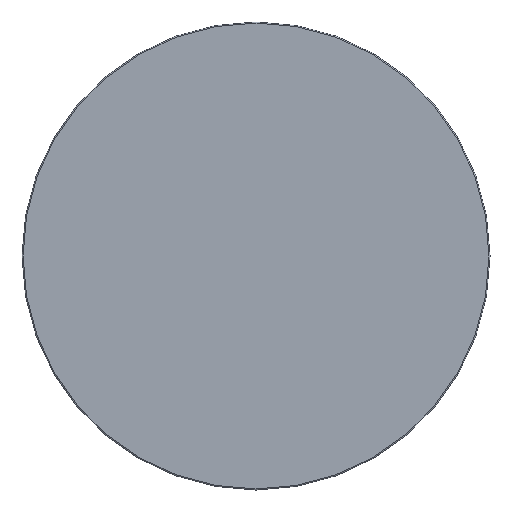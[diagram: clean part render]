
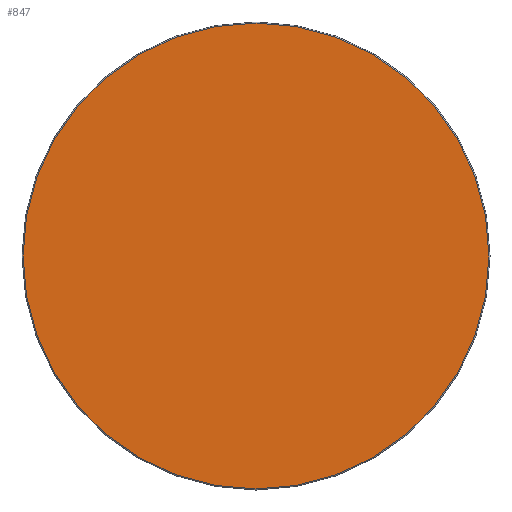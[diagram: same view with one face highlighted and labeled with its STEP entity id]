
A CAD part, left-side view. The second image highlights one B-rep face of the part: STEP entity #847.
In plain terms, the highlighted planar face has unit normal (-1, 0, 0).
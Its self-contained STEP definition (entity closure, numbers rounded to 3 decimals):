
#824=CARTESIAN_POINT('',(0.,224.0,0.0));
#825=VERTEX_POINT('',#824);
#826=CARTESIAN_POINT('',(0.,0.0,0.0));
#827=DIRECTION('',(1.0,0.0,0.0));
#828=DIRECTION('',(0.0,-1.0,0.0));
#829=AXIS2_PLACEMENT_3D('',#826,#827,#828);
#830=CIRCLE('',#829,224.0);
#831=EDGE_CURVE('',#825,#825,#830,.T.);
#839=CARTESIAN_POINT('',(0.,163.717,0.));
#840=DIRECTION('',(-1.0,0.0,0.0));
#841=DIRECTION('',(0.0,0.0,1.0));
#842=AXIS2_PLACEMENT_3D('',#839,#840,#841);
#843=PLANE('',#842);
#844=ORIENTED_EDGE('',*,*,#831,.F.);
#845=EDGE_LOOP('',(#844));
#846=FACE_OUTER_BOUND('',#845,.T.);
#847=ADVANCED_FACE('',(#846),#843,.T.);
